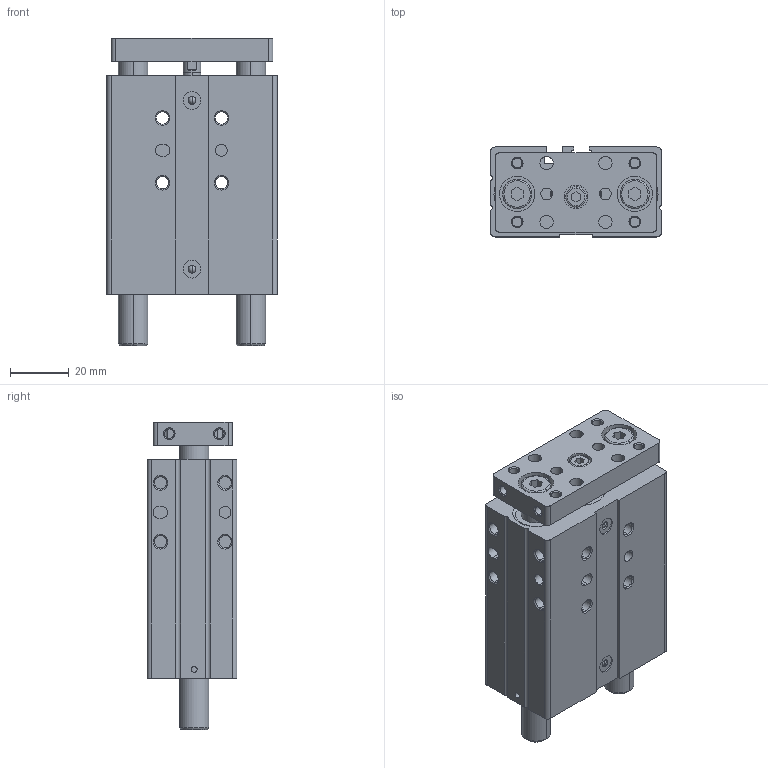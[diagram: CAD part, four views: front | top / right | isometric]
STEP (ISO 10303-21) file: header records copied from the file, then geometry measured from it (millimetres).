
FILE_DESCRIPTION((''),'2;1');
FILE_NAME('0822060003_ASM','2017-07-14T',('hug2hc'),(''),'CREO PARAMETRIC BY PTC INC, 2016260','CREO PARAMETRIC BY PTC INC, 2016260','');
FILE_SCHEMA(('CONFIG_CONTROL_DESIGN'));
Length unit declared in the file: millimetre
Products named in the file (3): 0822060003-A; 0822060003-B; 0822060003_ASM
Assembly tree (2 placements, depth 2):
  0822060003_ASM
    0822060003-A
    0822060003-B
Bounding box: 58 x 30.5 x 104.7 mm (x, y, z)
Volume: 122335.1 mm3; surface area: 45568.1 mm2
Topology: 2 solids, 6 shells, 390 faces, 921 edges, 592 vertices
Faces by surface type: cylinder 173, plane 149, cone 58, torus 6, sphere 4
Entity records: 11862 total; most frequent: CARTESIAN_POINT 2332, DIRECTION 2113, ORIENTED_EDGE 1834, EDGE_CURVE 917, AXIS2_PLACEMENT_3D 827, VERTEX_POINT 592, EDGE_LOOP 491, VECTOR 459
